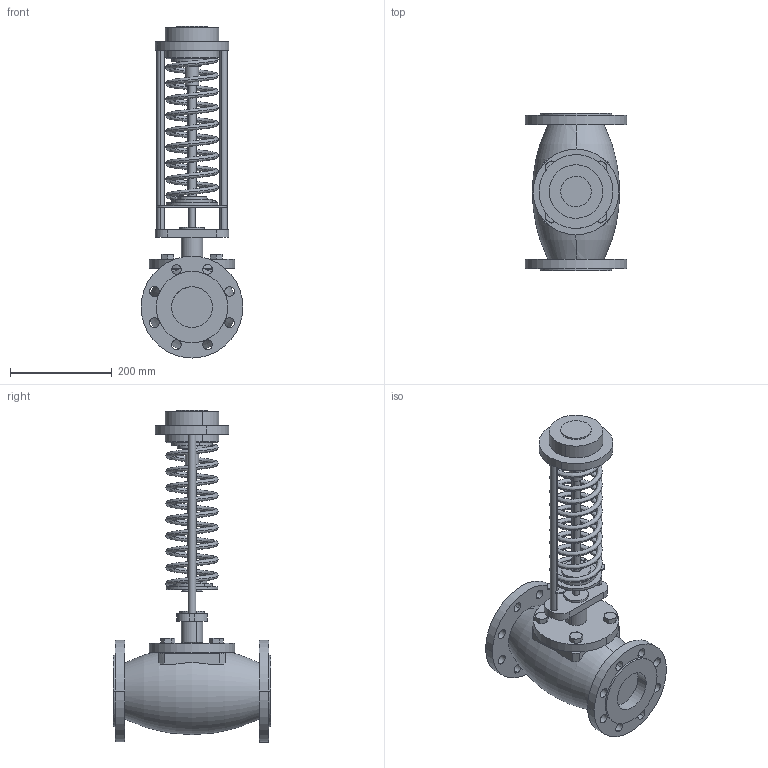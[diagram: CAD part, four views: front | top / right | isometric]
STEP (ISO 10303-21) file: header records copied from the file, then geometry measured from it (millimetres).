
FILE_DESCRIPTION (( 'STEP AP214' ), '1' );
FILE_NAME ('RDT-S, RDT-B DN-80.STEP', '2025-12-12T08:17:21', ( '' ), ( '' ), 'SwSTEP 2.0', 'SolidWorks 2023', '' );
FILE_SCHEMA (( 'AUTOMOTIVE_DESIGN' ));
Length unit declared in the file: millimetre
Products named in the file (4): ______ ___ __ ____ 65-100_1.stp; RDT-S, RDT-B DN-80; RDT DN-80(______)_1.stp; RDT-S, RDT-B DN-80.stp
Assembly tree (3 placements, depth 3):
  RDT-S, RDT-B DN-80
    RDT-S, RDT-B DN-80.stp
      ______ ___ __ ____ 65-100_1.stp
      RDT DN-80(______)_1.stp
Bounding box: 200 x 310 x 652 mm (x, y, z)
Volume: 7667517.2 mm3; surface area: 562395.5 mm2
Topology: 2 solids, 3 shells, 254 faces, 620 edges, 397 vertices
Faces by surface type: cylinder 118, plane 88, cone 44, bspline 2, torus 2
Entity records: 11342 total; most frequent: CARTESIAN_POINT 5043, DIRECTION 1364, ORIENTED_EDGE 1240, EDGE_CURVE 620, AXIS2_PLACEMENT_3D 564, VERTEX_POINT 397, EDGE_LOOP 327, CIRCLE 305
